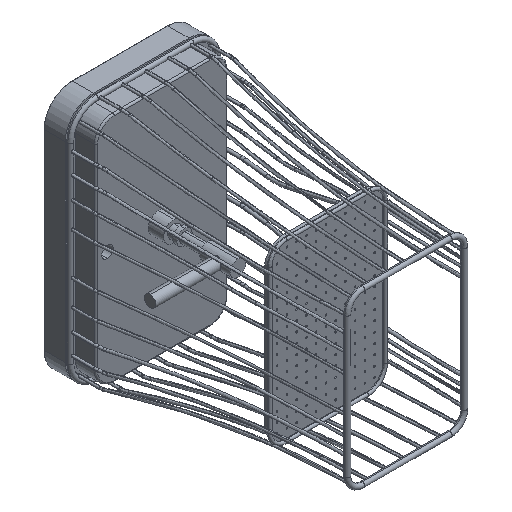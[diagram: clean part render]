
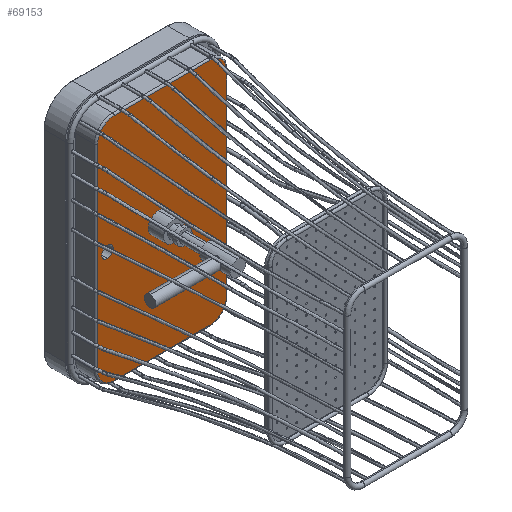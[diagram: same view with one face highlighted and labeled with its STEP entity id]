
A CAD part, isometric view. The second image highlights one B-rep face of the part: STEP entity #69153.
In plain terms, the highlighted planar face has unit normal (0, -1, 0).
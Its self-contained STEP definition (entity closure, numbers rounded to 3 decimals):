
#458 = CARTESIAN_POINT ( 'NONE',  ( 145., -55.5, -347.5 ) ) ;
#2515 = DIRECTION ( 'NONE',  ( 0., -1., 0. ) ) ;
#2874 = ORIENTED_EDGE ( 'NONE', *, *, #56886, .F. ) ;
#3293 = EDGE_LOOP ( 'NONE', ( #55187, #28904 ) ) ;
#3404 = VERTEX_POINT ( 'NONE', #64111 ) ;
#3811 = VERTEX_POINT ( 'NONE', #22397 ) ;
#3834 = VERTEX_POINT ( 'NONE', #60641 ) ;
#3858 = DIRECTION ( 'NONE',  ( 0., 0., 1. ) ) ;
#4046 = CARTESIAN_POINT ( 'NONE',  ( 195., -55.5, -297.5 ) ) ;
#4532 = CIRCLE ( 'NONE', #7902, 50. ) ;
#4584 = CARTESIAN_POINT ( 'NONE',  ( -165., -55.5, 0. ) ) ;
#4722 = AXIS2_PLACEMENT_3D ( 'NONE', #10090, #21930, #52815 ) ;
#4863 = CARTESIAN_POINT ( 'NONE',  ( -145., -55.5, -347.5 ) ) ;
#5340 = EDGE_CURVE ( 'NONE', #3404, #7158, #23212, .T. ) ;
#5594 = DIRECTION ( 'NONE',  ( 0., 0., 1. ) ) ;
#6102 = EDGE_CURVE ( 'NONE', #3811, #13541, #35539, .T. ) ;
#7158 = VERTEX_POINT ( 'NONE', #18092 ) ;
#7902 = AXIS2_PLACEMENT_3D ( 'NONE', #57029, #8004, #67943 ) ;
#8004 = DIRECTION ( 'NONE',  ( 0., -1., 0. ) ) ;
#8990 = EDGE_CURVE ( 'NONE', #3834, #33277, #45906, .T. ) ;
#9125 = LINE ( 'NONE', #51860, #47821 ) ;
#9138 = EDGE_CURVE ( 'NONE', #53984, #67687, #4532, .T. ) ;
#9708 = CIRCLE ( 'NONE', #41074, 22.5 ) ;
#10090 = CARTESIAN_POINT ( 'NONE',  ( -145., -55.5, -297.5 ) ) ;
#10945 = EDGE_CURVE ( 'NONE', #50190, #26189, #25979, .T. ) ;
#11488 = VERTEX_POINT ( 'NONE', #39801 ) ;
#13090 = DIRECTION ( 'NONE',  ( -1., 0., 0. ) ) ;
#13541 = VERTEX_POINT ( 'NONE', #33238 ) ;
#13663 = DIRECTION ( 'NONE',  ( 0., 0., -1. ) ) ;
#16404 = AXIS2_PLACEMENT_3D ( 'NONE', #56433, #51511, #13663 ) ;
#18092 = CARTESIAN_POINT ( 'NONE',  ( 145., -55.5, 347.5 ) ) ;
#18334 = LINE ( 'NONE', #50608, #49051 ) ;
#18833 = ORIENTED_EDGE ( 'NONE', *, *, #5340, .T. ) ;
#21310 = DIRECTION ( 'NONE',  ( 0., 1., 0. ) ) ;
#21376 = CARTESIAN_POINT ( 'NONE',  ( 145., -55.5, -347.5 ) ) ;
#21930 = DIRECTION ( 'NONE',  ( 0., -1., 0. ) ) ;
#22055 = AXIS2_PLACEMENT_3D ( 'NONE', #22354, #21310, #5594 ) ;
#22335 = CARTESIAN_POINT ( 'NONE',  ( -195., -55.5, 297.5 ) ) ;
#22354 = CARTESIAN_POINT ( 'NONE',  ( -165., -55.5, 0. ) ) ;
#22397 = CARTESIAN_POINT ( 'NONE',  ( -165., -55.5, -17.5 ) ) ;
#23212 = CIRCLE ( 'NONE', #55721, 50. ) ;
#25955 = DIRECTION ( 'NONE',  ( 0., 0., 1. ) ) ;
#25979 = CIRCLE ( 'NONE', #4722, 50. ) ;
#26189 = VERTEX_POINT ( 'NONE', #4863 ) ;
#28648 = ORIENTED_EDGE ( 'NONE', *, *, #38911, .T. ) ;
#28904 = ORIENTED_EDGE ( 'NONE', *, *, #6102, .T. ) ;
#29995 = DIRECTION ( 'NONE',  ( 0., -1., 0. ) ) ;
#30863 = PLANE ( 'NONE',  #35550 ) ;
#31164 = CARTESIAN_POINT ( 'NONE',  ( -195., -55.5, -297.5 ) ) ;
#33238 = CARTESIAN_POINT ( 'NONE',  ( -165., -55.5, 17.5 ) ) ;
#33277 = VERTEX_POINT ( 'NONE', #40584 ) ;
#33603 = DIRECTION ( 'NONE',  ( 0., -1., 0. ) ) ;
#34993 = DIRECTION ( 'NONE',  ( 0., 0., -1. ) ) ;
#35513 = ORIENTED_EDGE ( 'NONE', *, *, #55257, .T. ) ;
#35539 = CIRCLE ( 'NONE', #22055, 17.5 ) ;
#35550 = AXIS2_PLACEMENT_3D ( 'NONE', #51217, #2515, #62111 ) ;
#35665 = ORIENTED_EDGE ( 'NONE', *, *, #10945, .T. ) ;
#36138 = CIRCLE ( 'NONE', #45077, 17.5 ) ;
#36216 = DIRECTION ( 'NONE',  ( 1., 0., 0. ) ) ;
#37834 = ORIENTED_EDGE ( 'NONE', *, *, #8990, .F. ) ;
#38838 = EDGE_CURVE ( 'NONE', #11488, #62639, #50028, .T. ) ;
#38911 = EDGE_CURVE ( 'NONE', #67687, #3404, #9125, .T. ) ;
#39046 = LINE ( 'NONE', #45002, #65770 ) ;
#39801 = CARTESIAN_POINT ( 'NONE',  ( -145., -55.5, 347.5 ) ) ;
#40584 = CARTESIAN_POINT ( 'NONE',  ( -10., -55.5, -22.5 ) ) ;
#41074 = AXIS2_PLACEMENT_3D ( 'NONE', #64846, #33603, #48685 ) ;
#41306 = CARTESIAN_POINT ( 'NONE',  ( -10., -55.5, 0. ) ) ;
#41774 = DIRECTION ( 'NONE',  ( 0., 1., 0. ) ) ;
#45002 = CARTESIAN_POINT ( 'NONE',  ( -195., -55.5, -297.5 ) ) ;
#45077 = AXIS2_PLACEMENT_3D ( 'NONE', #4584, #41774, #25955 ) ;
#45906 = CIRCLE ( 'NONE', #54799, 22.5 ) ;
#46571 = DIRECTION ( 'NONE',  ( 0., -1., 0. ) ) ;
#47779 = LINE ( 'NONE', #458, #69035 ) ;
#47821 = VECTOR ( 'NONE', #3858, 1000. ) ;
#48685 = DIRECTION ( 'NONE',  ( 0., 0., -1. ) ) ;
#48895 = EDGE_CURVE ( 'NONE', #62639, #50190, #39046, .T. ) ;
#49051 = VECTOR ( 'NONE', #13090, 1000. ) ;
#50028 = CIRCLE ( 'NONE', #16404, 50. ) ;
#50190 = VERTEX_POINT ( 'NONE', #31164 ) ;
#50608 = CARTESIAN_POINT ( 'NONE',  ( 0., -55.5, 347.5 ) ) ;
#50694 = DIRECTION ( 'NONE',  ( 0., 0., -1. ) ) ;
#50890 = FACE_OUTER_BOUND ( 'NONE', #55486, .T. ) ;
#51217 = CARTESIAN_POINT ( 'NONE',  ( 0., -55.5, 0. ) ) ;
#51511 = DIRECTION ( 'NONE',  ( 0., -1., 0. ) ) ;
#51860 = CARTESIAN_POINT ( 'NONE',  ( 195., -55.5, 0. ) ) ;
#51947 = EDGE_CURVE ( 'NONE', #13541, #3811, #36138, .T. ) ;
#52815 = DIRECTION ( 'NONE',  ( 0., 0., -1. ) ) ;
#53172 = ORIENTED_EDGE ( 'NONE', *, *, #58020, .T. ) ;
#53984 = VERTEX_POINT ( 'NONE', #21376 ) ;
#54799 = AXIS2_PLACEMENT_3D ( 'NONE', #41306, #46571, #34993 ) ;
#55187 = ORIENTED_EDGE ( 'NONE', *, *, #51947, .T. ) ;
#55257 = EDGE_CURVE ( 'NONE', #26189, #53984, #47779, .T. ) ;
#55486 = EDGE_LOOP ( 'NONE', ( #53172, #66197, #62661, #35665, #35513, #67245, #28648, #18833 ) ) ;
#55721 = AXIS2_PLACEMENT_3D ( 'NONE', #55923, #29995, #50694 ) ;
#55923 = CARTESIAN_POINT ( 'NONE',  ( 145., -55.5, 297.5 ) ) ;
#56433 = CARTESIAN_POINT ( 'NONE',  ( -145., -55.5, 297.5 ) ) ;
#56886 = EDGE_CURVE ( 'NONE', #33277, #3834, #9708, .T. ) ;
#57029 = CARTESIAN_POINT ( 'NONE',  ( 145., -55.5, -297.5 ) ) ;
#57488 = FACE_BOUND ( 'NONE', #68089, .T. ) ;
#58020 = EDGE_CURVE ( 'NONE', #7158, #11488, #18334, .T. ) ;
#60641 = CARTESIAN_POINT ( 'NONE',  ( -10., -55.5, 22.5 ) ) ;
#62111 = DIRECTION ( 'NONE',  ( 0., 0., -1. ) ) ;
#62639 = VERTEX_POINT ( 'NONE', #22335 ) ;
#62661 = ORIENTED_EDGE ( 'NONE', *, *, #48895, .T. ) ;
#64111 = CARTESIAN_POINT ( 'NONE',  ( 195., -55.5, 297.5 ) ) ;
#64846 = CARTESIAN_POINT ( 'NONE',  ( -10., -55.5, 0. ) ) ;
#65699 = DIRECTION ( 'NONE',  ( 0., 0., -1. ) ) ;
#65770 = VECTOR ( 'NONE', #65699, 1000. ) ;
#66197 = ORIENTED_EDGE ( 'NONE', *, *, #38838, .T. ) ;
#67245 = ORIENTED_EDGE ( 'NONE', *, *, #9138, .T. ) ;
#67687 = VERTEX_POINT ( 'NONE', #4046 ) ;
#67943 = DIRECTION ( 'NONE',  ( 0., 0., -1. ) ) ;
#68061 = FACE_BOUND ( 'NONE', #3293, .T. ) ;
#68089 = EDGE_LOOP ( 'NONE', ( #37834, #2874 ) ) ;
#69035 = VECTOR ( 'NONE', #36216, 1000. ) ;
#69153 = ADVANCED_FACE ( 'NONE', ( #50890, #68061, #57488 ), #30863, .T. ) ;
